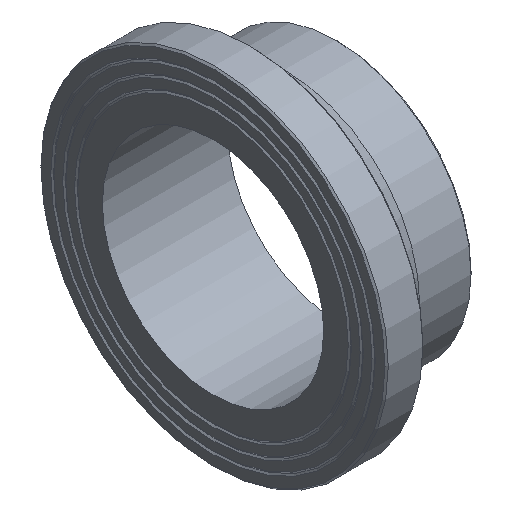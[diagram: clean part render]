
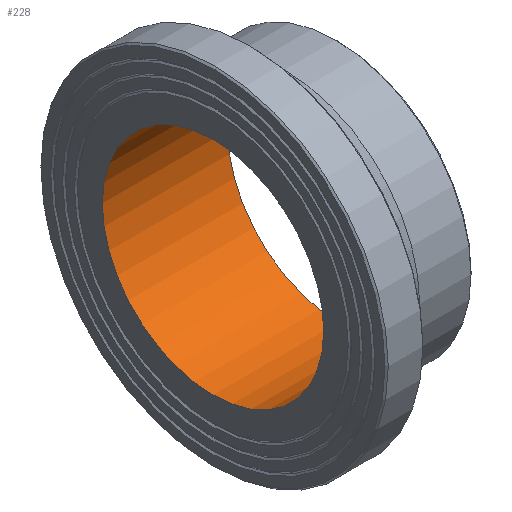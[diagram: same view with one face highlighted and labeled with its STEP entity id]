
A CAD part, isometric view. The second image highlights one B-rep face of the part: STEP entity #228.
In plain terms, the highlighted cylindrical face has radius 102.3 mm (diameter 204.6 mm), a full revolution.
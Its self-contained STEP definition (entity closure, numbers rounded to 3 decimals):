
#33=CYLINDRICAL_SURFACE('',#274,102.3);
#50=ORIENTED_EDGE('',*,*,#79,.F.);
#51=ORIENTED_EDGE('',*,*,#76,.T.);
#76=EDGE_CURVE('',#96,#96,#116,.T.);
#79=EDGE_CURVE('',#99,#99,#119,.T.);
#96=VERTEX_POINT('',#383);
#99=VERTEX_POINT('',#390);
#116=CIRCLE('',#257,102.3);
#119=CIRCLE('',#261,102.3);
#150=EDGE_LOOP('',(#50));
#151=EDGE_LOOP('',(#51));
#190=FACE_BOUND('',#150,.T.);
#191=FACE_BOUND('',#151,.T.);
#228=ADVANCED_FACE('',(#190,#191),#33,.F.);
#257=AXIS2_PLACEMENT_3D('',#382,#303,#304);
#261=AXIS2_PLACEMENT_3D('',#389,#311,#312);
#274=AXIS2_PLACEMENT_3D('',#410,#337,#338);
#303=DIRECTION('',(-1.,0.,0.));
#304=DIRECTION('',(0.,0.,1.));
#311=DIRECTION('',(-1.,0.,0.));
#312=DIRECTION('',(0.,0.,1.));
#337=DIRECTION('',(-1.,0.,0.));
#338=DIRECTION('',(0.,0.,1.));
#382=CARTESIAN_POINT('',(0.,0.,0.));
#383=CARTESIAN_POINT('',(0.,0.,102.3));
#389=CARTESIAN_POINT('',(116.,0.,0.));
#390=CARTESIAN_POINT('',(116.,0.,102.3));
#410=CARTESIAN_POINT('',(60.,0.,0.));
